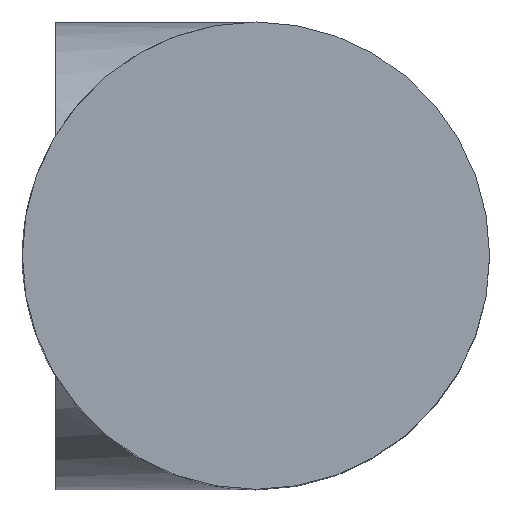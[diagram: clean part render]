
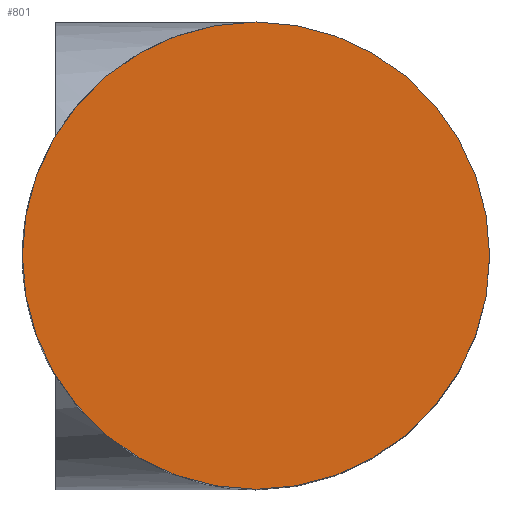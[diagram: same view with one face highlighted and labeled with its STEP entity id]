
A CAD part, top view. The second image highlights one B-rep face of the part: STEP entity #801.
In plain terms, the highlighted planar face has unit normal (0, 0, 1).
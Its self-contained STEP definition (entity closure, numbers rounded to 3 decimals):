
#79 = CYLINDRICAL_SURFACE('',#80,2.1);
#80 = AXIS2_PLACEMENT_3D('',#81,#82,#83);
#81 = CARTESIAN_POINT('',(0.,5.,-7.));
#82 = DIRECTION('',(0.,0.,1.));
#83 = DIRECTION('',(1.,0.,-0.));
#229 = EDGE_CURVE('',#230,#230,#232,.T.);
#230 = VERTEX_POINT('',#231);
#231 = CARTESIAN_POINT('',(2.1,5.,-3.55));
#232 = SURFACE_CURVE('',#233,(#238,#245),.PCURVE_S1.);
#233 = CIRCLE('',#234,2.1);
#234 = AXIS2_PLACEMENT_3D('',#235,#236,#237);
#235 = CARTESIAN_POINT('',(0.,5.,-3.55));
#236 = DIRECTION('',(0.,0.,1.));
#237 = DIRECTION('',(1.,0.,-0.));
#238 = PCURVE('',#79,#239);
#239 = DEFINITIONAL_REPRESENTATION('',(#240),#244);
#240 = LINE('',#241,#242);
#241 = CARTESIAN_POINT('',(0.,3.45));
#242 = VECTOR('',#243,1.);
#243 = DIRECTION('',(1.,0.));
#244 = ( GEOMETRIC_REPRESENTATION_CONTEXT(2) 
PARAMETRIC_REPRESENTATION_CONTEXT() REPRESENTATION_CONTEXT('2D SPACE',''
  ) );
#245 = PCURVE('',#246,#251);
#246 = PLANE('',#247);
#247 = AXIS2_PLACEMENT_3D('',#248,#249,#250);
#248 = CARTESIAN_POINT('',(0.,5.,-3.55));
#249 = DIRECTION('',(0.,0.,1.));
#250 = DIRECTION('',(1.,0.,-0.));
#251 = DEFINITIONAL_REPRESENTATION('',(#252),#256);
#252 = CIRCLE('',#253,2.1);
#253 = AXIS2_PLACEMENT_2D('',#254,#255);
#254 = CARTESIAN_POINT('',(0.,0.));
#255 = DIRECTION('',(1.,0.));
#256 = ( GEOMETRIC_REPRESENTATION_CONTEXT(2) 
PARAMETRIC_REPRESENTATION_CONTEXT() REPRESENTATION_CONTEXT('2D SPACE',''
  ) );
#801 = ADVANCED_FACE('',(#802),#246,.T.);
#802 = FACE_BOUND('',#803,.T.);
#803 = EDGE_LOOP('',(#804));
#804 = ORIENTED_EDGE('',*,*,#229,.T.);
